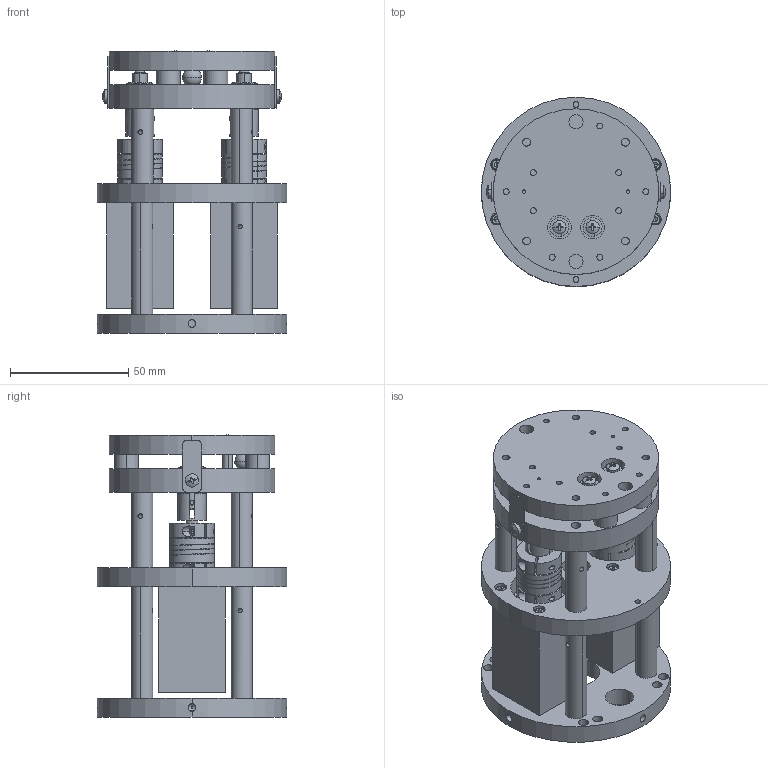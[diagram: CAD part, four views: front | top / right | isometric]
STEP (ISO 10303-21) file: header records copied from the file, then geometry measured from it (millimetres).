
FILE_DESCRIPTION (( 'STEP AP203' ), '1' );
FILE_NAME ('7SIA0205电动倾斜台.STEP', '2019-11-20T06:23:05', ( '' ), ( '' ), 'SwSTEP 2.0', 'SolidWorks 2018', '' );
FILE_SCHEMA (( 'CONFIG_CONTROL_DESIGN' ));
Length unit declared in the file: millimetre
Products named in the file (1): 7SIA0205萇雄ъ訇怢
Bounding box: 80 x 80 x 119.22 mm (x, y, z)
Volume: 239093.5 mm3; surface area: 98263.1 mm2
Topology: 61 solids, 61 shells, 1311 faces, 3118 edges, 1948 vertices
Faces by surface type: cylinder 580, plane 511, cone 168, torus 30, sphere 18, bspline 4
Entity records: 39688 total; most frequent: CARTESIAN_POINT 8696, DIRECTION 6865, ORIENTED_EDGE 6058, EDGE_CURVE 3029, AXIS2_PLACEMENT_3D 2736, VERTEX_POINT 1939, EDGE_LOOP 1616, CIRCLE 1428
